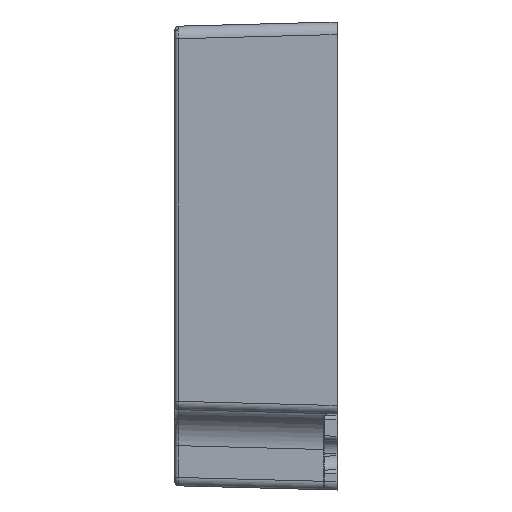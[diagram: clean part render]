
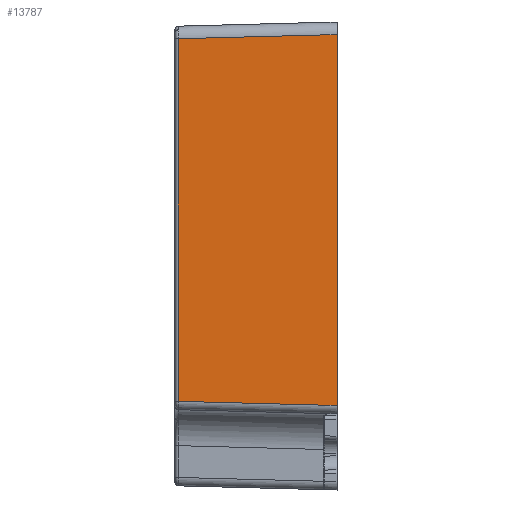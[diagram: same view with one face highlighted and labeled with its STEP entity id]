
A CAD part, left-side view. The second image highlights one B-rep face of the part: STEP entity #13787.
In plain terms, the highlighted planar face has unit normal (-1, 0.026, 0).
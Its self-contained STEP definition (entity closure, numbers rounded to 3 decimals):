
#4797 = DIRECTION ( 'NONE',  ( 0., 0., 1. ) ) ;
#11042 = EDGE_CURVE ( 'NONE', #104317, #13951, #77404, .T. ) ;
#13787 = ADVANCED_FACE ( 'NONE', ( #27221 ), #74924, .T. ) ;
#13951 = VERTEX_POINT ( 'NONE', #49564 ) ;
#19807 = DIRECTION ( 'NONE',  ( 0.026, 0.999, -0.026 ) ) ;
#22693 = ORIENTED_EDGE ( 'NONE', *, *, #42289, .T. ) ;
#26822 = LINE ( 'NONE', #61602, #28205 ) ;
#27221 = FACE_OUTER_BOUND ( 'NONE', #28983, .T. ) ;
#28205 = VECTOR ( 'NONE', #4797, 1000. ) ;
#28983 = EDGE_LOOP ( 'NONE', ( #74632, #44411, #74973, #22693 ) ) ;
#33651 = VERTEX_POINT ( 'NONE', #53749 ) ;
#40352 = VECTOR ( 'NONE', #19807, 1000. ) ;
#42289 = EDGE_CURVE ( 'NONE', #119405, #33651, #26822, .T. ) ;
#44411 = ORIENTED_EDGE ( 'NONE', *, *, #11042, .T. ) ;
#45342 = VECTOR ( 'NONE', #74738, 1000. ) ;
#49564 = CARTESIAN_POINT ( 'NONE',  ( -51.095, 11.313, -20.806 ) ) ;
#53160 = DIRECTION ( 'NONE',  ( 0., 0., -1. ) ) ;
#53698 = LINE ( 'NONE', #113623, #40352 ) ;
#53749 = CARTESIAN_POINT ( 'NONE',  ( -51.69, -11.4, 31.701 ) ) ;
#56667 = DIRECTION ( 'NONE',  ( -0.026, -1., 0. ) ) ;
#61602 = CARTESIAN_POINT ( 'NONE',  ( -51.69, -11.4, 33.5 ) ) ;
#73143 = CARTESIAN_POINT ( 'NONE',  ( -51.095, 11.313, -20.793 ) ) ;
#74632 = ORIENTED_EDGE ( 'NONE', *, *, #94853, .T. ) ;
#74738 = DIRECTION ( 'NONE',  ( -0.026, -0.999, -0.026 ) ) ;
#74924 = PLANE ( 'NONE',  #122756 ) ;
#74973 = ORIENTED_EDGE ( 'NONE', *, *, #105111, .T. ) ;
#75748 = CARTESIAN_POINT ( 'NONE',  ( -51.69, -11.4, 33.5 ) ) ;
#77404 = LINE ( 'NONE', #73143, #81923 ) ;
#81923 = VECTOR ( 'NONE', #53160, 1000. ) ;
#83633 = CARTESIAN_POINT ( 'NONE',  ( -51.69, -11.4, -21.4 ) ) ;
#90741 = CARTESIAN_POINT ( 'NONE',  ( -51.095, 11.313, 31.106 ) ) ;
#94853 = EDGE_CURVE ( 'NONE', #33651, #104317, #53698, .T. ) ;
#95684 = DIRECTION ( 'NONE',  ( -1., 0.026, 0. ) ) ;
#95882 = LINE ( 'NONE', #112155, #45342 ) ;
#104317 = VERTEX_POINT ( 'NONE', #90741 ) ;
#105111 = EDGE_CURVE ( 'NONE', #13951, #119405, #95882, .T. ) ;
#112155 = CARTESIAN_POINT ( 'NONE',  ( -51.652, -9.964, -21.363 ) ) ;
#113623 = CARTESIAN_POINT ( 'NONE',  ( -51.691, -11.447, 31.702 ) ) ;
#119405 = VERTEX_POINT ( 'NONE', #83633 ) ;
#122756 = AXIS2_PLACEMENT_3D ( 'NONE', #75748, #95684, #56667 ) ;
